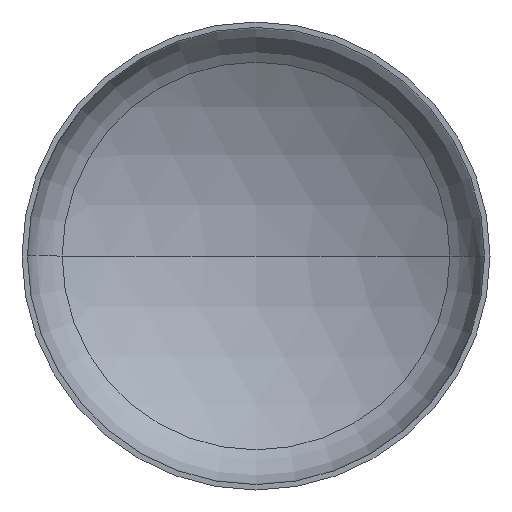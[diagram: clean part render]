
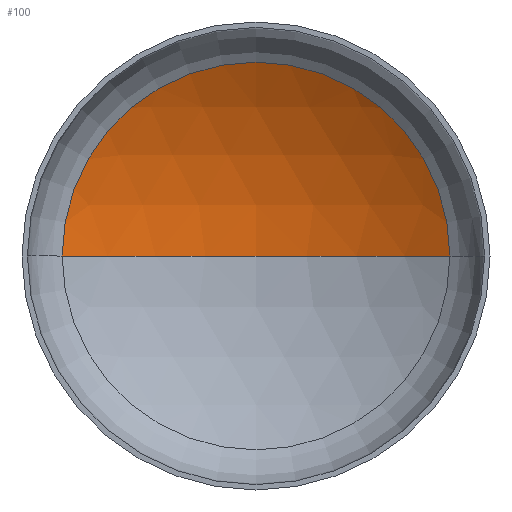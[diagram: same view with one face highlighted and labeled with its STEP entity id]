
A CAD part, front view. The second image highlights one B-rep face of the part: STEP entity #100.
In plain terms, the highlighted spherical face has radius 4000 mm.
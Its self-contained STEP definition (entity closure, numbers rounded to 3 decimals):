
#3 = AXIS2_PLACEMENT_3D ( 'NONE', #209, #207, #201 ) ;
#6 = VERTEX_POINT ( 'NONE', #88 ) ;
#10 = CARTESIAN_POINT ( 'NONE',  ( 2070.588, 778.808, 0. ) ) ;
#11 = AXIS2_PLACEMENT_3D ( 'NONE', #222, #281, #282 ) ;
#20 = ORIENTED_EDGE ( 'NONE', *, *, #382, .T. ) ;
#28 = CIRCLE ( 'NONE', #411, 2070.588 ) ;
#55 = VERTEX_POINT ( 'NONE', #10 ) ;
#57 = ORIENTED_EDGE ( 'NONE', *, *, #378, .T. ) ;
#88 = CARTESIAN_POINT ( 'NONE',  ( 0., 1356.431, 0. ) ) ;
#90 = AXIS2_PLACEMENT_3D ( 'NONE', #243, #242, #237 ) ;
#100 = ADVANCED_FACE ( 'NONE', ( #181 ), #235, .F. ) ;
#102 = EDGE_LOOP ( 'NONE', ( #115, #57, #20 ) ) ;
#105 = VERTEX_POINT ( 'NONE', #250 ) ;
#115 = ORIENTED_EDGE ( 'NONE', *, *, #363, .F. ) ;
#174 = CIRCLE ( 'NONE', #11, 4000. ) ;
#181 = FACE_OUTER_BOUND ( 'NONE', #102, .T. ) ;
#201 = DIRECTION ( 'NONE',  ( -1., 0., 0. ) ) ;
#207 = DIRECTION ( 'NONE',  ( 0., 0., -1. ) ) ;
#209 = CARTESIAN_POINT ( 'NONE',  ( 0., -2643.569, 0. ) ) ;
#222 = CARTESIAN_POINT ( 'NONE',  ( 0., -2643.569, 0. ) ) ;
#235 = SPHERICAL_SURFACE ( 'NONE', #90, 4000. ) ;
#237 = DIRECTION ( 'NONE',  ( -1., 0., 0. ) ) ;
#239 = CIRCLE ( 'NONE', #3, 4000. ) ;
#242 = DIRECTION ( 'NONE',  ( 0., 0., -1. ) ) ;
#243 = CARTESIAN_POINT ( 'NONE',  ( 0., -2643.569, 0. ) ) ;
#250 = CARTESIAN_POINT ( 'NONE',  ( -2070.588, 778.808, 0. ) ) ;
#281 = DIRECTION ( 'NONE',  ( 0., 0., 1. ) ) ;
#282 = DIRECTION ( 'NONE',  ( 1., 0., 0. ) ) ;
#308 = CARTESIAN_POINT ( 'NONE',  ( 0., 778.808, 0. ) ) ;
#316 = DIRECTION ( 'NONE',  ( 1., 0., 0. ) ) ;
#320 = DIRECTION ( 'NONE',  ( 0., -1., 0. ) ) ;
#363 = EDGE_CURVE ( 'NONE', #6, #105, #174, .T. ) ;
#378 = EDGE_CURVE ( 'NONE', #6, #55, #239, .T. ) ;
#382 = EDGE_CURVE ( 'NONE', #55, #105, #28, .T. ) ;
#411 = AXIS2_PLACEMENT_3D ( 'NONE', #308, #320, #316 ) ;
